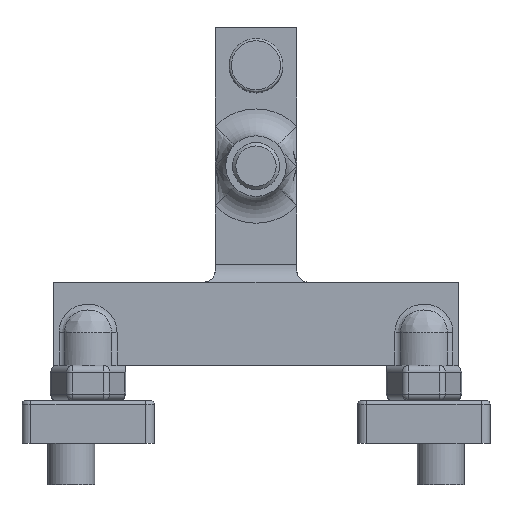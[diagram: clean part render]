
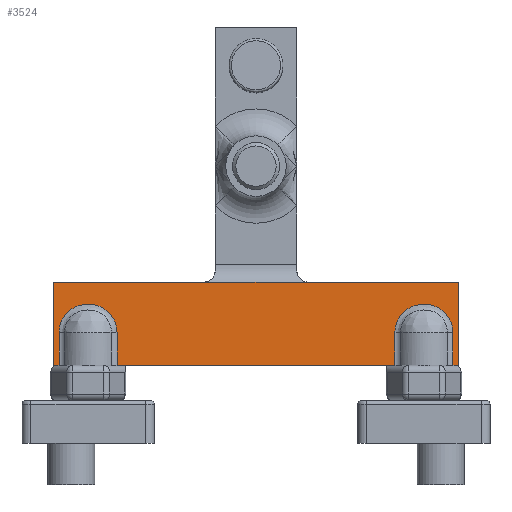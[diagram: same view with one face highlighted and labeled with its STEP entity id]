
A CAD part, front view. The second image highlights one B-rep face of the part: STEP entity #3524.
In plain terms, the highlighted planar face has unit normal (0, -1, 0).
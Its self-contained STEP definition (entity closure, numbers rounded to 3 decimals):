
#93=B_SPLINE_CURVE_WITH_KNOTS('',3,(#5474,#5475,#5476,#5477,#5478,#5479,
#5480,#5481,#5482,#5483,#5484,#5485),.UNSPECIFIED.,.F.,.F.,(4,1,1,1,1,1,
1,1,1,4),(-4.025,-3.45,-2.875,-2.3,
-2.013,-1.725,-1.438,-1.15,
-0.575,0.),.UNSPECIFIED.);
#105=B_SPLINE_CURVE_WITH_KNOTS('',3,(#5997,#5998,#5999,#6000,#6001,#6002,
#6003,#6004,#6005,#6006,#6007),.UNSPECIFIED.,.F.,.F.,(4,1,1,1,1,1,1,1,4),
(-4.025,-3.45,-2.875,-2.3,
-2.013,-1.725,-1.15,-0.575,
0.),.UNSPECIFIED.);
#169=PLANE('',#3870);
#494=FACE_OUTER_BOUND('',#733,.T.);
#733=EDGE_LOOP('',(#2744,#2745,#2746,#2747,#2748,#2749,#2750,#2751,#2752,
#2753,#2754,#2755,#2756,#2757,#2758,#2759));
#910=LINE('',#5419,#1165);
#912=LINE('',#5502,#1167);
#979=LINE('',#5917,#1234);
#982=LINE('',#5922,#1237);
#999=LINE('',#5990,#1254);
#1000=LINE('',#5993,#1255);
#1001=LINE('',#5995,#1256);
#1002=LINE('',#6009,#1257);
#1003=LINE('',#6010,#1258);
#1004=LINE('',#6011,#1259);
#1005=LINE('',#6013,#1260);
#1006=LINE('',#6014,#1261);
#1165=VECTOR('',#4225,10.);
#1167=VECTOR('',#4235,10.);
#1234=VECTOR('',#4542,10.);
#1237=VECTOR('',#4547,10.);
#1254=VECTOR('',#4590,10.);
#1255=VECTOR('',#4593,10.);
#1256=VECTOR('',#4594,10.);
#1257=VECTOR('',#4595,10.);
#1258=VECTOR('',#4596,10.);
#1259=VECTOR('',#4597,10.);
#1260=VECTOR('',#4598,10.);
#1261=VECTOR('',#4599,10.);
#1496=CIRCLE('',#3847,1.);
#1499=CIRCLE('',#3854,1.);
#1645=VERTEX_POINT('',#5416);
#1646=VERTEX_POINT('',#5418);
#1649=VERTEX_POINT('',#5472);
#1651=VERTEX_POINT('',#5500);
#1745=VERTEX_POINT('',#5889);
#1746=VERTEX_POINT('',#5890);
#1751=VERTEX_POINT('',#5910);
#1752=VERTEX_POINT('',#5911);
#1753=VERTEX_POINT('',#5916);
#1754=VERTEX_POINT('',#5920);
#1768=VERTEX_POINT('',#5975);
#1769=VERTEX_POINT('',#5992);
#1770=VERTEX_POINT('',#5994);
#1771=VERTEX_POINT('',#5996);
#1772=VERTEX_POINT('',#6008);
#1773=VERTEX_POINT('',#6012);
#1940=EDGE_CURVE('',#1645,#1646,#910,.T.);
#1944=EDGE_CURVE('',#1649,#1645,#93,.T.);
#1947=EDGE_CURVE('',#1651,#1649,#912,.T.);
#2080=EDGE_CURVE('',#1745,#1746,#1496,.T.);
#2091=EDGE_CURVE('',#1751,#1752,#1499,.T.);
#2094=EDGE_CURVE('',#1753,#1746,#979,.T.);
#2097=EDGE_CURVE('',#1745,#1754,#982,.T.);
#2120=EDGE_CURVE('',#1768,#1752,#999,.T.);
#2121=EDGE_CURVE('',#1651,#1769,#1000,.T.);
#2122=EDGE_CURVE('',#1770,#1769,#1001,.T.);
#2123=EDGE_CURVE('',#1771,#1770,#105,.T.);
#2124=EDGE_CURVE('',#1772,#1771,#1002,.T.);
#2125=EDGE_CURVE('',#1772,#1753,#1003,.T.);
#2126=EDGE_CURVE('',#1754,#1768,#1004,.T.);
#2127=EDGE_CURVE('',#1751,#1773,#1005,.T.);
#2128=EDGE_CURVE('',#1773,#1646,#1006,.T.);
#2744=ORIENTED_EDGE('',*,*,#1947,.F.);
#2745=ORIENTED_EDGE('',*,*,#2121,.T.);
#2746=ORIENTED_EDGE('',*,*,#2122,.F.);
#2747=ORIENTED_EDGE('',*,*,#2123,.F.);
#2748=ORIENTED_EDGE('',*,*,#2124,.F.);
#2749=ORIENTED_EDGE('',*,*,#2125,.T.);
#2750=ORIENTED_EDGE('',*,*,#2094,.T.);
#2751=ORIENTED_EDGE('',*,*,#2080,.F.);
#2752=ORIENTED_EDGE('',*,*,#2097,.T.);
#2753=ORIENTED_EDGE('',*,*,#2126,.T.);
#2754=ORIENTED_EDGE('',*,*,#2120,.T.);
#2755=ORIENTED_EDGE('',*,*,#2091,.F.);
#2756=ORIENTED_EDGE('',*,*,#2127,.T.);
#2757=ORIENTED_EDGE('',*,*,#2128,.T.);
#2758=ORIENTED_EDGE('',*,*,#1940,.F.);
#2759=ORIENTED_EDGE('',*,*,#1944,.F.);
#3524=ADVANCED_FACE('',(#494),#169,.T.);
#3847=AXIS2_PLACEMENT_3D('',#5891,#4514,#4515);
#3854=AXIS2_PLACEMENT_3D('',#5912,#4536,#4537);
#3870=AXIS2_PLACEMENT_3D('',#5991,#4591,#4592);
#4225=DIRECTION('',(0.,0.,-1.));
#4235=DIRECTION('',(0.,0.,1.));
#4514=DIRECTION('center_axis',(0.,1.,0.));
#4515=DIRECTION('ref_axis',(0.707,0.,0.707));
#4536=DIRECTION('center_axis',(0.,1.,0.));
#4537=DIRECTION('ref_axis',(-0.707,0.,0.707));
#4542=DIRECTION('',(0.,0.,1.));
#4547=DIRECTION('',(-1.,0.,0.));
#4590=DIRECTION('',(-1.,0.,0.));
#4591=DIRECTION('center_axis',(0.,-1.,0.));
#4592=DIRECTION('ref_axis',(0.,0.,-1.));
#4593=DIRECTION('',(1.,0.,0.));
#4594=DIRECTION('',(0.,0.,-1.));
#4595=DIRECTION('',(0.,0.,1.));
#4596=DIRECTION('',(1.,0.,0.));
#4597=DIRECTION('',(-1.,0.,0.));
#4598=DIRECTION('',(0.,0.,-1.));
#4599=DIRECTION('',(1.,0.,0.));
#5416=CARTESIAN_POINT('',(-87.961,-51.,-4.302));
#5418=CARTESIAN_POINT('',(-87.961,-51.,-19.));
#5419=CARTESIAN_POINT('',(-87.961,-51.,-19.));
#5472=CARTESIAN_POINT('',(-62.039,-51.,-4.302));
#5474=CARTESIAN_POINT('Ctrl Pts',(-62.039,-51.,-4.302));
#5475=CARTESIAN_POINT('Ctrl Pts',(-62.039,-51.,-2.385));
#5476=CARTESIAN_POINT('Ctrl Pts',(-62.929,-51.,1.445));
#5477=CARTESIAN_POINT('Ctrl Pts',(-66.672,-51.,6.019));
#5478=CARTESIAN_POINT('Ctrl Pts',(-71.164,-51.,8.024));
#5479=CARTESIAN_POINT('Ctrl Pts',(-75.,-51.,8.365));
#5480=CARTESIAN_POINT('Ctrl Pts',(-77.877,-51.,8.108));
#5481=CARTESIAN_POINT('Ctrl Pts',(-80.634,-51.,7.227));
#5482=CARTESIAN_POINT('Ctrl Pts',(-83.95,-51.,5.251));
#5483=CARTESIAN_POINT('Ctrl Pts',(-87.072,-51.,1.448));
#5484=CARTESIAN_POINT('Ctrl Pts',(-87.961,-51.,-2.385));
#5485=CARTESIAN_POINT('Ctrl Pts',(-87.961,-51.,-4.302));
#5500=CARTESIAN_POINT('',(-62.039,-51.,-19.));
#5502=CARTESIAN_POINT('',(-62.039,-51.,-19.));
#5889=CARTESIAN_POINT('',(89.5,-51.,18.2));
#5890=CARTESIAN_POINT('',(90.5,-51.,17.2));
#5891=CARTESIAN_POINT('Origin',(89.5,-51.,17.2));
#5910=CARTESIAN_POINT('',(-90.5,-51.,17.2));
#5911=CARTESIAN_POINT('',(-89.5,-51.,18.2));
#5912=CARTESIAN_POINT('Origin',(-89.5,-51.,17.2));
#5916=CARTESIAN_POINT('',(90.5,-51.,-19.));
#5917=CARTESIAN_POINT('',(90.5,-51.,-19.));
#5920=CARTESIAN_POINT('',(23.25,-51.,18.2));
#5922=CARTESIAN_POINT('',(90.5,-51.,18.2));
#5975=CARTESIAN_POINT('',(-23.25,-51.,18.2));
#5990=CARTESIAN_POINT('',(90.5,-51.,18.2));
#5991=CARTESIAN_POINT('Origin',(0.,-51.,56.5));
#5992=CARTESIAN_POINT('',(62.039,-51.,-19.));
#5993=CARTESIAN_POINT('',(-90.5,-51.,-19.));
#5994=CARTESIAN_POINT('',(62.039,-51.,-4.302));
#5995=CARTESIAN_POINT('',(62.039,-51.,-19.));
#5996=CARTESIAN_POINT('',(87.961,-51.,-4.302));
#5997=CARTESIAN_POINT('Ctrl Pts',(87.961,-51.,-4.302));
#5998=CARTESIAN_POINT('Ctrl Pts',(87.961,-51.,-2.385));
#5999=CARTESIAN_POINT('Ctrl Pts',(87.071,-51.,1.446));
#6000=CARTESIAN_POINT('Ctrl Pts',(83.327,-51.,6.014));
#6001=CARTESIAN_POINT('Ctrl Pts',(78.838,-51.,8.028));
#6002=CARTESIAN_POINT('Ctrl Pts',(75.,-51.,8.364));
#6003=CARTESIAN_POINT('Ctrl Pts',(71.164,-51.,8.025));
#6004=CARTESIAN_POINT('Ctrl Pts',(66.672,-51.,6.019));
#6005=CARTESIAN_POINT('Ctrl Pts',(62.929,-51.,1.446));
#6006=CARTESIAN_POINT('Ctrl Pts',(62.039,-51.,-2.385));
#6007=CARTESIAN_POINT('Ctrl Pts',(62.039,-51.,-4.302));
#6008=CARTESIAN_POINT('',(87.961,-51.,-19.));
#6009=CARTESIAN_POINT('',(87.961,-51.,-19.));
#6010=CARTESIAN_POINT('',(-90.5,-51.,-19.));
#6011=CARTESIAN_POINT('',(0.,-51.,18.2));
#6012=CARTESIAN_POINT('',(-90.5,-51.,-19.));
#6013=CARTESIAN_POINT('',(-90.5,-51.,18.2));
#6014=CARTESIAN_POINT('',(-90.5,-51.,-19.));
